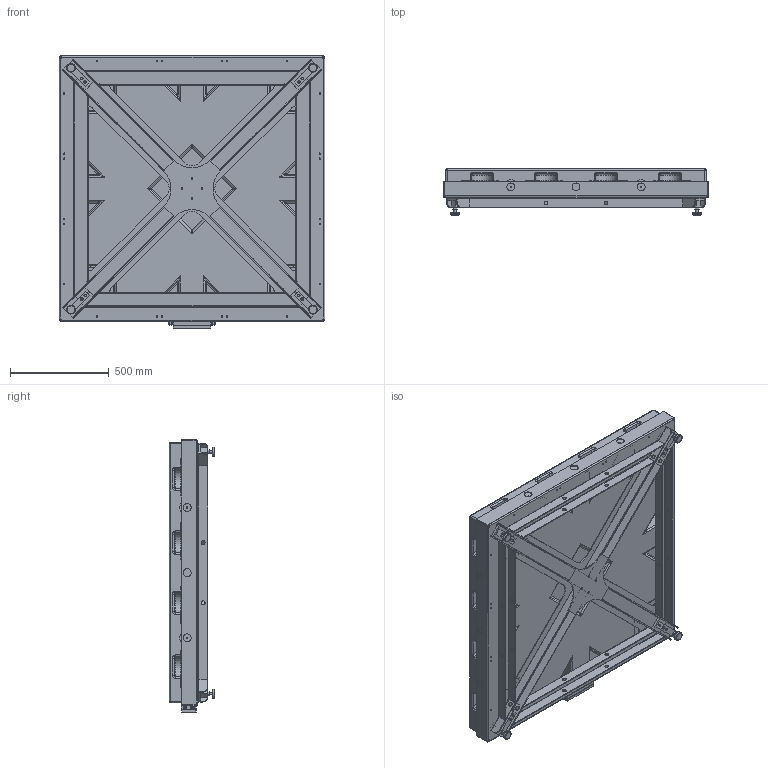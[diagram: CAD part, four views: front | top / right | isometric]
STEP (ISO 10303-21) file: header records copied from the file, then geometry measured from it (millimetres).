
FILE_DESCRIPTION (( 'STEP AP214' ), '1' );
FILE_NAME ('4040-52.STEP', '2022-01-07T17:53:32', ( '' ), ( '' ), 'SwSTEP 2.0', 'SolidWorks 2019', '' );
FILE_SCHEMA (( 'AUTOMOTIVE_DESIGN' ));
Length unit declared in the file: inch
Products named in the file (1): 4040-52
Bounding box: 1346.2 x 232.94 x 1379.73 mm (x, y, z)
Surface area: 10878688.9 mm2 (no closed solid volume)
Topology: 0 solids, 116 shells, 813 faces, 4578 edges, 3737 vertices
Faces by surface type: plane 361, cylinder 281, bspline 75, torus 48, sphere 28, cone 20
Full cylindrical faces by diameter (mm): 5.105 x4, 6.528 x8, 6.731 x1, 7.938 x4, 12.667 x4, 13.335 x8, 15.85 x3, 19.05 x16, 37.973 x4, 40.132 x11, 44.45 x4
Entity records: 67399 total; most frequent: CARTESIAN_POINT 23068, DIRECTION 6316, ORIENTED_EDGE 5607, EDGE_CURVE 4412, VERTEX_POINT 3690, LINE 3052, VECTOR 3052, AXIS2_PLACEMENT_3D 1632
